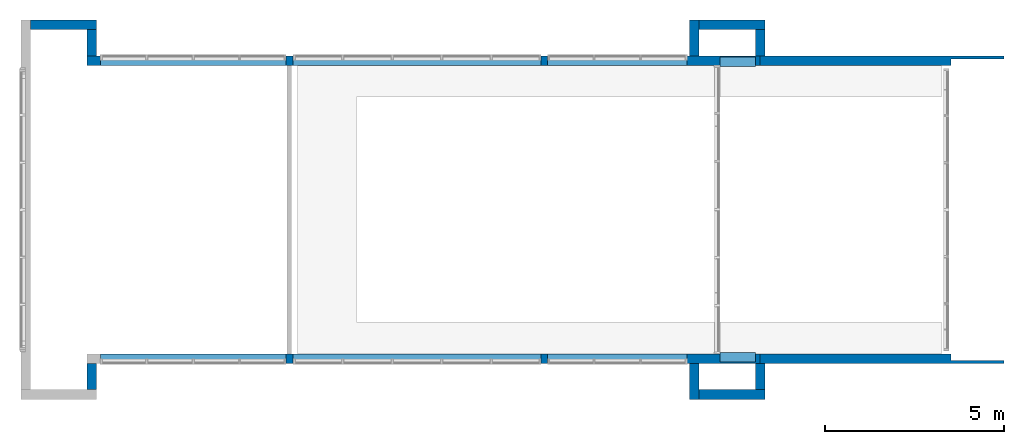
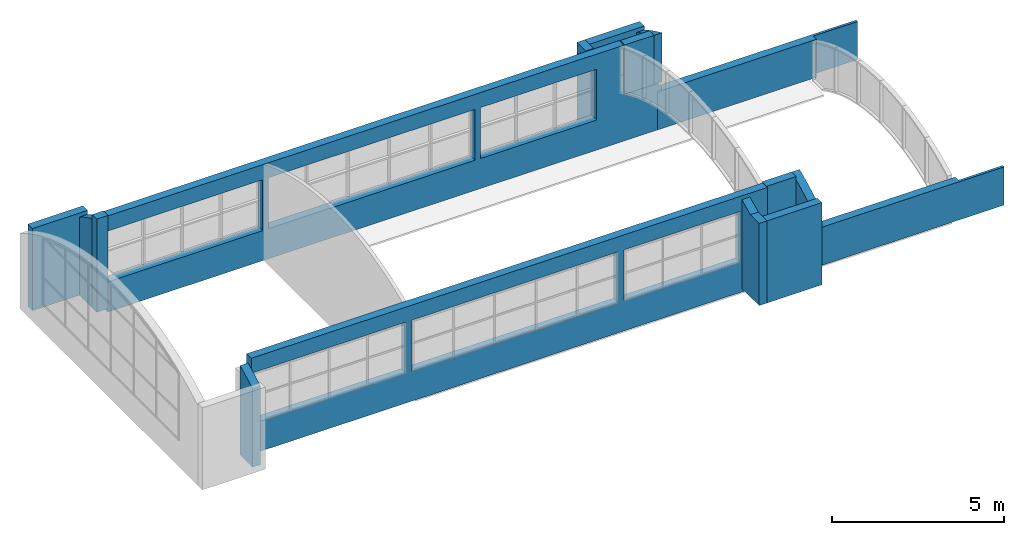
# One storey, part 12 of 14: 16 walls, 8 openings.
"""IFC2X3 building model written with IfcOpenShell, lengths in metres."""

from ifc_helpers import new_model, entity, si_unit, converted_unit, frame, frame_2d, origin, origin_2d_with_axis, place, context, project, spatial, polyline, rectangle, outline, extrude, clip, halfspace, bounded_halfspace, face_set, surface_model, material, layer, layer_set, layer_usage, element, save


model = new_model("IFC2X3")

# Units and contexts
model_context = context("Model", 3, precision=1e-09, world=origin())
plan_context = context("Plan", 3, precision=1e-09, world=origin())
ifc_project = project(units=[si_unit("LENGTHUNIT", "METRE"), si_unit("AREAUNIT", "SQUARE_METRE"), si_unit("VOLUMEUNIT", "CUBIC_METRE"), converted_unit("PLANEANGLEUNIT", "DEGREE", entity("IfcRatioMeasure", 0.01745329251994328), si_unit("PLANEANGLEUNIT", "RADIAN"), dimensions=[0, 0, 0, 0, 0, 0, 0]), si_unit("TIMEUNIT", "SECOND")], contexts=[model_context, plan_context])

# Site, building, storey
site_placement = place(None, origin())
site = spatial("IfcSite", under=ifc_project, at=site_placement, Name="Default", CompositionType="ELEMENT")
building_placement = place(site_placement, origin())
building = spatial("IfcBuilding", under=site, at=building_placement, CompositionType="ELEMENT")
storey_placement = place(building_placement, frame((0.0, 0.0, 9.25000000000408)))
storey = spatial("IfcBuildingStorey", under=building, at=storey_placement, Name="Roof - Main", CompositionType="ELEMENT", Elevation=9.25000000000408)

# Walls
ifc_material_1 = material(Name="Insulation - Insulated Panel")
ifc_layer_1 = layer(ifc_material_1, 0.042)
ifc_material_2 = material(Name="Metal - Firring")
ifc_layer_2 = layer(ifc_material_2, 0.038)
ifc_material_3 = material(Name="Wood - Sheathing - plywood")
ifc_layer_3 = layer(ifc_material_3, 0.019)
ifc_material_4 = material(Name="Metal - Stud Layer")
ifc_layer_4 = layer(ifc_material_4, 0.152)
ifc_material_5 = material(Name="Plasterboard")
ifc_layer_5 = layer(ifc_material_5, 0.016)
ifc_layer_set = layer_set([ifc_layer_1, ifc_layer_2, ifc_layer_3, ifc_layer_4, ifc_layer_5], Name="Basic Wall:Exterior - Insul Panel on Mtl. Stud")
ifc_layer_usage_1 = layer_usage(ifc_layer_set, "AXIS2", "NEGATIVE", 0.1335)
wall_1_placement = place(storey_placement, frame((-20.42350000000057, 35.85099013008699, 0.0)))
element("IfcWallStandardCase", 1, at=wall_1_placement, inside=storey, material=ifc_layer_usage_1, Name="Basic Wall:Exterior - Insul Panel on Mtl. Stud", ObjectType="Basic Wall:Exterior - Insul Panel on Mtl. Stud", context=model_context, shape_type="Clipping", body=[
    clip(clip(extrude(rectangle(XDim=6.803500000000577, YDim=0.2669999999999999, at=frame_2d((3.401750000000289, 0.0), x_axis=(-1.0, 0.0))), origin(), (0.0, 0.0, 1.0), 1.350828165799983), bounded_halfspace(frame((5.327000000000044, 0.0464138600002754, 1.350828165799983), z_axis=(0.0, 1.0, 0.0), x_axis=(-1.0, 0.0, 0.0)), True, frame((5.327000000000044, 0.0464138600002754, 1.350828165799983), z_axis=(0.0, 1.0, 0.0), x_axis=(-1.0, 0.0, 0.0)), polyline([(0.0, 0.0), (-1.47650000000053, 0.0), (-1.47650000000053, -0.893828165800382), (-1.47650000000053, -1.350828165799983), (0.0, -1.350828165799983), (0.0, 0.0)]))), bounded_halfspace(frame((5.327000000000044, 0.0464138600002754, 0.0), z_axis=(-1.0, 0.0, 0.0), x_axis=(0.0, -1.0, 0.0)), True, frame((5.327000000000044, 0.0464138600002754, 0.0), z_axis=(-1.0, 0.0, 0.0), x_axis=(0.0, -1.0, 0.0)), polyline([(0.0, 0.0), (0.1799138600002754, 0.0), (0.1799138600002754, 1.349999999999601), (0.1799138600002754, 1.350828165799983), (0.0, 1.350828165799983), (0.0, 0.0)]))),
])
ifc_layer_usage_2 = layer_usage(ifc_layer_set, "AXIS2", "NEGATIVE", 0.1335)
wall_2_placement = place(storey_placement, frame((-40.77300000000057, 36.85099013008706, 0.1199999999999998)))
element("IfcWallStandardCase", 2, at=wall_2_placement, inside=storey, material=ifc_layer_usage_2, Name="Basic Wall:Exterior - Insul Panel on Mtl. Stud", ObjectType="Basic Wall:Exterior - Insul Panel on Mtl. Stud", context=model_context, shape_type="SweptSolid", body=[
    extrude(rectangle(XDim=1.839046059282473, YDim=0.2669999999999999, at=frame_2d((0.9195230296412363, 0.0), x_axis=(-1.0, 0.0))), origin(), (0.0, 0.0, 1.0), 2.908195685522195),
])
ifc_layer_usage_3 = layer_usage(ifc_layer_set, "AXIS2", "NEGATIVE", 0.1335)
wall_3_placement = place(storey_placement, frame((-39.06745394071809, 36.71749013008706, 0.1199999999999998), z_axis=(0.0, 0.0, 1.0), x_axis=(0.0, -1.0, 0.0)))
element("IfcWall", 3, at=wall_3_placement, inside=storey, material=ifc_layer_usage_3, Name="Basic Wall:Exterior - Insul Panel on Mtl. Stud", ObjectType="Basic Wall:Exterior - Insul Panel on Mtl. Stud", context=model_context, shape_type="SurfaceModel", body=[
    surface_model("IfcFaceBasedSurfaceModel", [(0.0, -0.1335000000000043, 0.0), (0.7330000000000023, -0.1335000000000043, 0.0), (0.7330000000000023, -0.1335000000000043, 3.155468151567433), (0.4851808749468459, -0.1335000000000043, 3.03414161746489), (0.2407861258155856, -0.1335000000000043, 2.906057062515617), (0.0, -0.1335000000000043, 2.771311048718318), (0.0, 0.1335, 0.0), (0.7330000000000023, 0.1335, 0.0), (0.7330000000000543, 0.1335, 3.155468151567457), (0.4851808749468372, 0.1335, 3.034141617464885), (0.240786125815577, 0.1335, 2.906057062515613), (0.0, 0.1335, 2.771311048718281)], [face_set([[[0, 1, 2, 3, 4, 5]], [[6, 7, 8, 9, 10, 11]], [[0, 6, 11, 5]], [[2, 1, 7, 8]], [[1, 0, 6, 7]], [[8, 9, 3, 2]], [[4, 3, 9, 10]], [[10, 11, 5, 4]]])]),
])
ifc_layer_usage_4 = layer_usage(ifc_layer_set, "AXIS2", "NEGATIVE", 0.1335)
wall_4_placement = place(storey_placement, frame((-39.20095394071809, 35.85099013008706, 0.1199999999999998)))
element("IfcWallStandardCase", 4, at=wall_4_placement, inside=storey, material=ifc_layer_usage_4, Name="Basic Wall:Exterior - Insul Panel on Mtl. Stud", ObjectType="Basic Wall:Exterior - Insul Panel on Mtl. Stud", context=model_context, shape_type="SweptSolid", body=[
    extrude(rectangle(XDim=0.3749539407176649, YDim=0.267, at=frame_2d((0.1874769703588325, 0.0), x_axis=(-1.0, 0.0))), origin(), (0.0, 0.0, 1.0), 3.3),
])
ifc_layer_usage_5 = layer_usage(ifc_layer_set, "AXIS2", "POSITIVE", -0.1335)
wall_5_placement = place(storey_placement, frame((-39.06745394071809, 26.67250986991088, 0.1199999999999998), z_axis=(0.0, 0.0, 1.0), x_axis=(0.0, 1.0, 0.0)))
element("IfcWall", 5, at=wall_5_placement, inside=storey, material=ifc_layer_usage_5, Name="Basic Wall:Exterior - Insul Panel on Mtl. Stud", ObjectType="Basic Wall:Exterior - Insul Panel on Mtl. Stud", context=model_context, shape_type="SurfaceModel", body=[
    surface_model("IfcFaceBasedSurfaceModel", [(0.0, -0.1334999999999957, 0.0), (0.7330000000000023, -0.1334999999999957, 0.0), (0.7330000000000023, -0.1334999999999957, 3.155468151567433), (0.4851808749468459, -0.1334999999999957, 3.03414161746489), (0.2407861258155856, -0.1334999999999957, 2.906057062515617), (0.0, -0.1334999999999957, 2.771311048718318), (0.0, 0.1335000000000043, 0.0), (0.7330000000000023, 0.1335000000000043, 0.0), (0.7330000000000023, 0.1335000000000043, 2.908195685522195), (0.7330000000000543, 0.1335000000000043, 3.155468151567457), (0.4851808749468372, 0.1335000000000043, 3.034141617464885), (0.240786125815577, 0.1335000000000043, 2.906057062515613), (0.0, 0.1335000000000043, 2.771311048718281)], [face_set([[[0, 1, 2, 3, 4, 5]], [[6, 7, 8, 9, 10, 11, 12]], [[0, 6, 12, 5]], [[2, 1, 7, 8, 9]], [[1, 0, 6, 7]], [[9, 10, 3, 2]], [[4, 3, 10, 11]], [[11, 12, 5, 4]]])]),
])

# Wall, openings
ifc_layer_usage_6 = layer_usage(ifc_layer_set, "AXIS2", "NEGATIVE", 0.1335)
wall_6_placement = place(storey_placement, frame((-38.82600000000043, 35.85099013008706, 0.0)))
wall_6 = element("IfcWallStandardCase", 6, at=wall_6_placement, inside=storey, material=ifc_layer_usage_6, Name="Basic Wall:Exterior - Insul Panel on Mtl. Stud", ObjectType="Basic Wall:Exterior - Insul Panel on Mtl. Stud", context=model_context, shape_type="Clipping", body=[
    clip(extrude(rectangle(XDim=18.53599999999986, YDim=0.267, at=frame_2d((9.267999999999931, 0.0), x_axis=(-1.0, 0.0))), origin(), (0.0, 0.0, 1.0), 3.399999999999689), halfspace(frame((18.40249999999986, 0.0, 1.678139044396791), z_axis=(0.838027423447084, 0.0, 0.5456281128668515), x_axis=(0.0, 1.0, 0.0)), False)),
])
opening_1_placement = place(wall_6_placement, origin())
element("IfcOpeningElement", 7, at=opening_1_placement, cuts=wall_6, ObjectType="Opening", context=model_context, shape_type="SweptSolid", body=[
    extrude(rectangle(XDim=1.8, YDim=5.180000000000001, at=origin_2d_with_axis()), frame((2.589999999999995, -0.2859, 1.966999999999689), z_axis=(0.0, 1.0, 0.0), x_axis=(0.0, 0.0, 1.0)), (0.0, 0.0, 1.0), 0.5718),
])
opening_2_placement = place(wall_6_placement, origin())
element("IfcOpeningElement", 8, at=opening_2_placement, cuts=wall_6, ObjectType="Opening", context=model_context, shape_type="SweptSolid", body=[
    extrude(rectangle(XDim=1.8, YDim=3.889999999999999, at=origin_2d_with_axis()), frame((14.42100000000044, -0.2858999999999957, 1.966999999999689), z_axis=(0.0, 1.0, 0.0), x_axis=(0.0, 0.0, 1.0)), (0.0, 0.0, 1.0), 0.5718),
])
opening_3_placement = place(wall_6_placement, origin())
element("IfcOpeningElement", 9, at=opening_3_placement, cuts=wall_6, ObjectType="Opening", context=model_context, shape_type="SweptSolid", body=[
    extrude(rectangle(XDim=1.8, YDim=6.905000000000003, at=origin_2d_with_axis()), frame((8.834499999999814, -0.2859, 1.966999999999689), z_axis=(0.0, 1.0, 0.0), x_axis=(0.0, 0.0, 1.0)), (0.0, 0.0, 1.0), 0.5718),
])
opening_4_placement = place(wall_6_placement, frame((17.65511336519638, 0.1334999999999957, 2.252092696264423)))
element("IfcOpeningElement", 10, at=opening_4_placement, cuts=wall_6, Name="Basic Wall:Exterior - Insul Panel on Mtl. Stud:2", ObjectType="Opening", context=model_context, shape_type="SweptSolid", body=[
    extrude(outline(polyline([(-0.888784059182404, -0.3131652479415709), (1.165875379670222, -0.313165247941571), (-0.2770913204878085, 0.6263304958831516), (-0.888784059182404, -0.3131652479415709)])), frame((0.0, 0.0, 0.0), z_axis=(0.0, -1.0, 0.0), x_axis=(-0.5456281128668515, 0.0, 0.838027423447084)), (0.0, 0.0, 1.0), 0.267),
])

# Walls
ifc_layer_usage_7 = layer_usage(ifc_layer_set, "AXIS2", "NEGATIVE", 0.1335)
wall_7_placement = place(storey_placement, frame((-22.26254605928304, 35.984490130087, 0.1199999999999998), z_axis=(0.0, 0.0, 1.0), x_axis=(0.0, 1.0, 0.0)))
element("IfcWall", 11, at=wall_7_placement, inside=storey, material=ifc_layer_usage_7, Name="Basic Wall:Exterior - Insul Panel on Mtl. Stud", ObjectType="Basic Wall:Exterior - Insul Panel on Mtl. Stud", context=model_context, shape_type="SurfaceModel", body=[
    surface_model("IfcFaceBasedSurfaceModel", [(0.0, -0.1335, 0.0), (0.7330000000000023, -0.1335, 0.0), (1.0, -0.1335, 0.0), (1.0, -0.1335, 2.908195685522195), (0.7330000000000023, -0.1335, 2.908195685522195), (0.488263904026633, -0.1335, 2.908195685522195), (0.2457441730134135, -0.1335, 3.029840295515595), (0.0, -0.1335, 3.144831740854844), (0.0, 0.1335, 0.0), (1.0, 0.1335, 0.0), (1.0, 0.1335, 2.908195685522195), (0.4882639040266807, 0.1335, 2.908195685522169), (0.2457441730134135, 0.1335, 3.029840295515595), (0.0, 0.1335, 3.144831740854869)], [face_set([[[0, 1, 2, 3, 4, 5, 6, 7]], [[8, 9, 10, 11, 12, 13]], [[3, 2, 9, 10]], [[2, 1, 0, 8, 9]], [[5, 11, 10, 3, 4]], [[6, 5, 11, 12]], [[12, 13, 7, 6]], [[0, 8, 13, 7]]])]),
])
ifc_layer_usage_8 = layer_usage(ifc_layer_set, "AXIS2", "NEGATIVE", 0.1335)
wall_8_placement = place(storey_placement, frame((-22.12904605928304, 36.85099013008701, 0.1199999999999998)))
element("IfcWallStandardCase", 12, at=wall_8_placement, inside=storey, material=ifc_layer_usage_8, Name="Basic Wall:Exterior - Insul Panel on Mtl. Stud", ObjectType="Basic Wall:Exterior - Insul Panel on Mtl. Stud", context=model_context, shape_type="SweptSolid", body=[
    extrude(rectangle(XDim=1.839046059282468, YDim=0.2669999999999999, at=frame_2d((0.9195230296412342, 0.0), x_axis=(-1.0, 0.0))), origin(), (0.0, 0.0, 1.0), 2.908195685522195),
])
ifc_layer_usage_9 = layer_usage(ifc_layer_set, "AXIS2", "NEGATIVE", 0.1335)
wall_9_placement = place(storey_placement, frame((-20.42350000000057, 36.71749013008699, 0.1199999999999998), z_axis=(0.0, 0.0, 1.0), x_axis=(0.0, -1.0, 0.0)))
element("IfcWall", 13, at=wall_9_placement, inside=storey, material=ifc_layer_usage_9, Name="Basic Wall:Exterior - Insul Panel on Mtl. Stud", ObjectType="Basic Wall:Exterior - Insul Panel on Mtl. Stud", context=model_context, shape_type="SurfaceModel", body=[
    surface_model("IfcFaceBasedSurfaceModel", [(0.0, -0.1335, 0.0), (0.7330000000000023, -0.1335, 0.0), (0.732999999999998, -0.1335, 1.558139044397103), (0.7674446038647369, -0.1335, 1.558139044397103), (1.034444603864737, -0.1335, 1.558139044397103), (1.034444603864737, -0.1335, 3.296287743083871), (0.7702721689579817, -0.1335, 3.176411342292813), (0.5096635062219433, -0.1335, 3.048972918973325), (0.2528350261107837, -0.1335, 2.914078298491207), (0.0, -0.1335, 2.771839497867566), (0.0, 0.1335, 0.0), (0.7330000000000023, 0.1335, 0.0), (0.7330000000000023, 0.1335, 1.230828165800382), (0.7330000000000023, 0.1335, 1.558139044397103), (1.0, 0.1335, 1.558139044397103), (1.034444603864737, 0.1335, 1.558139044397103), (1.034444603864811, 0.1335, 3.296287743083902), (0.7702721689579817, 0.1335, 3.176411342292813), (0.5096635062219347, 0.1335, 3.04897291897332), (0.2528350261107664, 0.1335, 2.914078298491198), (0.0, 0.1335, 2.771839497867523)], [face_set([[[0, 1, 2, 3, 4, 5, 6, 7, 8, 9]], [[10, 11, 12, 13, 14, 15, 16, 17, 18, 19, 20]], [[0, 10, 20, 9]], [[1, 0, 10, 11]], [[16, 17, 6, 5]], [[7, 6, 17, 18]], [[19, 20, 9, 8]], [[18, 19, 8, 7]], [[1, 11, 12, 13, 2]], [[5, 4, 15, 16]], [[15, 4, 3, 2, 13, 14]]])]),
])
ifc_layer_usage_10 = layer_usage(ifc_layer_set, "AXIS2", "POSITIVE", -0.1335)
wall_10_placement = place(storey_placement, frame((-21.54457995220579, 35.81654552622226, 1.678139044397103)))
element("IfcWallStandardCase", 14, at=wall_10_placement, inside=storey, material=ifc_layer_usage_10, Name="Basic Wall:Exterior - Insul Panel on Mtl. Stud", ObjectType="Basic Wall:Exterior - Insul Panel on Mtl. Stud", context=model_context, shape_type="SweptSolid", body=[
    extrude(rectangle(XDim=0.9875799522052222, YDim=0.2669999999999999, at=frame_2d((0.4937899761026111, 0.0), x_axis=(-1.0, 0.0))), origin(), (0.0, 0.0, 1.0), 1.741860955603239),
])
ifc_layer_usage_11 = layer_usage(ifc_layer_set, "AXIS2", "POSITIVE", -0.1335)
wall_11_placement = place(storey_placement, frame((-20.42350000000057, 27.53950986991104, 0.0)))
element("IfcWallStandardCase", 15, at=wall_11_placement, inside=storey, material=ifc_layer_usage_11, Name="Basic Wall:Exterior - Insul Panel on Mtl. Stud", ObjectType="Basic Wall:Exterior - Insul Panel on Mtl. Stud", context=model_context, shape_type="Clipping", body=[
    clip(clip(extrude(rectangle(XDim=6.803500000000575, YDim=0.2669999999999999, at=frame_2d((3.401750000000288, 0.0), x_axis=(-1.0, 0.0))), origin(), (0.0, 0.0, 1.0), 1.350828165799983), bounded_halfspace(frame((5.327000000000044, -0.0464138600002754, 0.0), z_axis=(0.0, -1.0, 0.0), x_axis=(1.0, 0.0, 0.0)), True, frame((5.327000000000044, -0.0464138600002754, 0.0), z_axis=(0.0, -1.0, 0.0), x_axis=(1.0, 0.0, 0.0)), polyline([(0.0, 0.0), (1.47650000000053, 0.0), (1.47650000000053, 0.4569999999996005), (1.47650000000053, 1.350828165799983), (0.0, 1.350828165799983), (0.0, 0.0)]))), bounded_halfspace(frame((5.327000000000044, -0.0464138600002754, 1.350828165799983), z_axis=(-1.0, 0.0, 0.0), x_axis=(0.0, -1.0, 0.0)), True, frame((5.327000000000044, -0.0464138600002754, 1.350828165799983), z_axis=(-1.0, 0.0, 0.0), x_axis=(0.0, -1.0, 0.0)), polyline([(0.0, 0.0), (-0.1799138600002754, 0.0), (-0.1799138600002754, -0.0008281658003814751), (-0.1799138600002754, -1.350828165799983), (0.0, -1.350828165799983), (0.0, 0.0)]))),
])

# Wall, openings
ifc_layer_usage_12 = layer_usage(ifc_layer_set, "AXIS2", "POSITIVE", -0.1335)
wall_12_placement = place(storey_placement, frame((-38.82600000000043, 27.53950986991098, 0.0)))
wall_12 = element("IfcWallStandardCase", 16, at=wall_12_placement, inside=storey, material=ifc_layer_usage_12, Name="Basic Wall:Exterior - Insul Panel on Mtl. Stud", ObjectType="Basic Wall:Exterior - Insul Panel on Mtl. Stud", context=model_context, shape_type="Clipping", body=[
    clip(extrude(rectangle(XDim=18.53599999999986, YDim=0.267, at=frame_2d((9.267999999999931, 0.0), x_axis=(-1.0, 0.0))), origin(), (0.0, 0.0, 1.0), 3.399999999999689), halfspace(frame((18.40249999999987, 0.0, 1.678139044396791), z_axis=(0.838027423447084, 0.0, 0.5456281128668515), x_axis=(0.0, 1.0, 0.0)), False)),
])
opening_5_placement = place(wall_12_placement, origin())
element("IfcOpeningElement", 17, at=opening_5_placement, cuts=wall_12, ObjectType="Opening", context=model_context, shape_type="SweptSolid", body=[
    extrude(rectangle(XDim=1.8, YDim=5.180000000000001, at=origin_2d_with_axis()), frame((2.589999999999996, -0.2859, 1.966999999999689), z_axis=(0.0, 1.0, 0.0), x_axis=(0.0, 0.0, 1.0)), (0.0, 0.0, 1.0), 0.5718),
])
opening_6_placement = place(wall_12_placement, origin())
element("IfcOpeningElement", 18, at=opening_6_placement, cuts=wall_12, ObjectType="Opening", context=model_context, shape_type="SweptSolid", body=[
    extrude(rectangle(XDim=1.8, YDim=3.889999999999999, at=origin_2d_with_axis()), frame((14.42100000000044, -0.2859000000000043, 1.966999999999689), z_axis=(0.0, 1.0, 0.0), x_axis=(0.0, 0.0, 1.0)), (0.0, 0.0, 1.0), 0.5718),
])
opening_7_placement = place(wall_12_placement, origin())
element("IfcOpeningElement", 19, at=opening_7_placement, cuts=wall_12, ObjectType="Opening", context=model_context, shape_type="SweptSolid", body=[
    extrude(rectangle(XDim=1.8, YDim=6.905000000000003, at=origin_2d_with_axis()), frame((8.834499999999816, -0.2859, 1.966999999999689), z_axis=(0.0, 1.0, 0.0), x_axis=(0.0, 0.0, 1.0)), (0.0, 0.0, 1.0), 0.5718),
])
opening_8_placement = place(wall_12_placement, frame((17.65511336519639, 0.1335, 2.252092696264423)))
element("IfcOpeningElement", 20, at=opening_8_placement, cuts=wall_12, Name="Basic Wall:Exterior - Insul Panel on Mtl. Stud:2", ObjectType="Opening", context=model_context, shape_type="SweptSolid", body=[
    extrude(outline(polyline([(-0.888784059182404, -0.3131652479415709), (1.165875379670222, -0.313165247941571), (-0.2770913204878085, 0.6263304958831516), (-0.888784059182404, -0.3131652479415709)])), frame((0.0, 0.0, 0.0), z_axis=(0.0, -1.0, 0.0), x_axis=(-0.5456281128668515, 0.0, 0.838027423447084)), (0.0, 0.0, 1.0), 0.267),
])

# Walls
ifc_layer_usage_13 = layer_usage(ifc_layer_set, "AXIS2", "POSITIVE", -0.1335)
wall_13_placement = place(storey_placement, frame((-22.26254605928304, 27.40600986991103, 0.1199999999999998), z_axis=(0.0, 0.0, 1.0), x_axis=(0.0, -1.0, 0.0)))
element("IfcWall", 21, at=wall_13_placement, inside=storey, material=ifc_layer_usage_13, Name="Basic Wall:Exterior - Insul Panel on Mtl. Stud", ObjectType="Basic Wall:Exterior - Insul Panel on Mtl. Stud", context=model_context, shape_type="SurfaceModel", body=[
    surface_model("IfcFaceBasedSurfaceModel", [(0.0, -0.1335, 0.0), (1.0, -0.1335, 0.0), (1.0, -0.1335, 2.908195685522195), (0.488263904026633, -0.1335, 2.908195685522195), (0.2457441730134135, -0.1335, 3.029840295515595), (0.0, -0.1335, 3.144831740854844), (0.0, 0.1335, 0.0), (0.7330000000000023, 0.1335, 0.0), (1.0, 0.1335, 0.0), (1.0, 0.1335, 2.908195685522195), (0.7330000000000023, 0.1335, 2.908195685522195), (0.4882639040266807, 0.1335, 2.908195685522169), (0.2457441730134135, 0.1335, 3.029840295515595), (0.0, 0.1335, 3.144831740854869)], [face_set([[[0, 1, 2, 3, 4, 5]], [[6, 7, 8, 9, 10, 11, 12, 13]], [[2, 1, 8, 9]], [[1, 0, 6, 7, 8]], [[3, 11, 10, 9, 2]], [[4, 3, 11, 12]], [[12, 13, 5, 4]], [[0, 6, 13, 5]]])]),
])
ifc_layer_usage_14 = layer_usage(ifc_layer_set, "AXIS2", "POSITIVE", -0.1335)
wall_14_placement = place(storey_placement, frame((-22.12904605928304, 26.53950986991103, 0.1199999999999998)))
element("IfcWallStandardCase", 22, at=wall_14_placement, inside=storey, material=ifc_layer_usage_14, Name="Basic Wall:Exterior - Insul Panel on Mtl. Stud", ObjectType="Basic Wall:Exterior - Insul Panel on Mtl. Stud", context=model_context, shape_type="SweptSolid", body=[
    extrude(rectangle(XDim=1.839046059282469, YDim=0.2669999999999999, at=frame_2d((0.9195230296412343, 0.0), x_axis=(-1.0, 0.0))), origin(), (0.0, 0.0, 1.0), 2.908195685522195),
])
ifc_layer_usage_15 = layer_usage(ifc_layer_set, "AXIS2", "POSITIVE", -0.1335)
wall_15_placement = place(storey_placement, frame((-20.42350000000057, 26.67300986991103, 0.1199999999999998), z_axis=(0.0, 0.0, 1.0), x_axis=(0.0, 1.0, 0.0)))
element("IfcWall", 23, at=wall_15_placement, inside=storey, material=ifc_layer_usage_15, Name="Basic Wall:Exterior - Insul Panel on Mtl. Stud", ObjectType="Basic Wall:Exterior - Insul Panel on Mtl. Stud", context=model_context, shape_type="SurfaceModel", body=[
    surface_model("IfcFaceBasedSurfaceModel", [(0.0, -0.1335, 0.0), (0.7330000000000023, -0.1335, 0.0), (0.7330000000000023, -0.1335, 1.230828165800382), (0.7330000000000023, -0.1335, 1.558139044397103), (1.0, -0.1335, 1.558139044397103), (1.034444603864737, -0.1335, 1.558139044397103), (1.034444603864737, -0.1335, 3.296287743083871), (0.7702721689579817, -0.1335, 3.176411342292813), (0.5096635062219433, -0.1335, 3.048972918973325), (0.2528350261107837, -0.1335, 2.914078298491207), (0.0, -0.1335, 2.771839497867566), (0.0, 0.1335, 0.0), (0.732999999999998, 0.1335, 0.0), (0.732999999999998, 0.1335, 1.558139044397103), (0.7674446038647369, 0.1335, 1.558139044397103), (1.034444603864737, 0.1335, 1.558139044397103), (1.034444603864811, 0.1335, 3.296287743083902), (0.7702721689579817, 0.1335, 3.176411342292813), (0.5096635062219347, 0.1335, 3.04897291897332), (0.2528350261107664, 0.1335, 2.914078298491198), (0.0, 0.1335, 2.771839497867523)], [face_set([[[0, 1, 2, 3, 4, 5, 6, 7, 8, 9, 10]], [[11, 12, 13, 14, 15, 16, 17, 18, 19, 20]], [[0, 11, 20, 10]], [[1, 0, 11, 12]], [[16, 17, 7, 6]], [[8, 7, 17, 18]], [[19, 20, 10, 9]], [[18, 19, 9, 8]], [[1, 12, 13, 3, 2]], [[6, 5, 15, 16]], [[15, 5, 4, 3, 13, 14]]])]),
])
ifc_layer_usage_16 = layer_usage(ifc_layer_set, "AXIS2", "NEGATIVE", 0.1335)
wall_16_placement = place(storey_placement, frame((-21.54457995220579, 27.57395447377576, 1.678139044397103)))
element("IfcWallStandardCase", 24, at=wall_16_placement, inside=storey, material=ifc_layer_usage_16, Name="Basic Wall:Exterior - Insul Panel on Mtl. Stud", ObjectType="Basic Wall:Exterior - Insul Panel on Mtl. Stud", context=model_context, shape_type="SweptSolid", body=[
    extrude(rectangle(XDim=0.9875799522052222, YDim=0.2669999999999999, at=frame_2d((0.4937899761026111, 0.0), x_axis=(-1.0, 0.0))), origin(), (0.0, 0.0, 1.0), 1.741860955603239),
])

save(model, "model.ifc")
